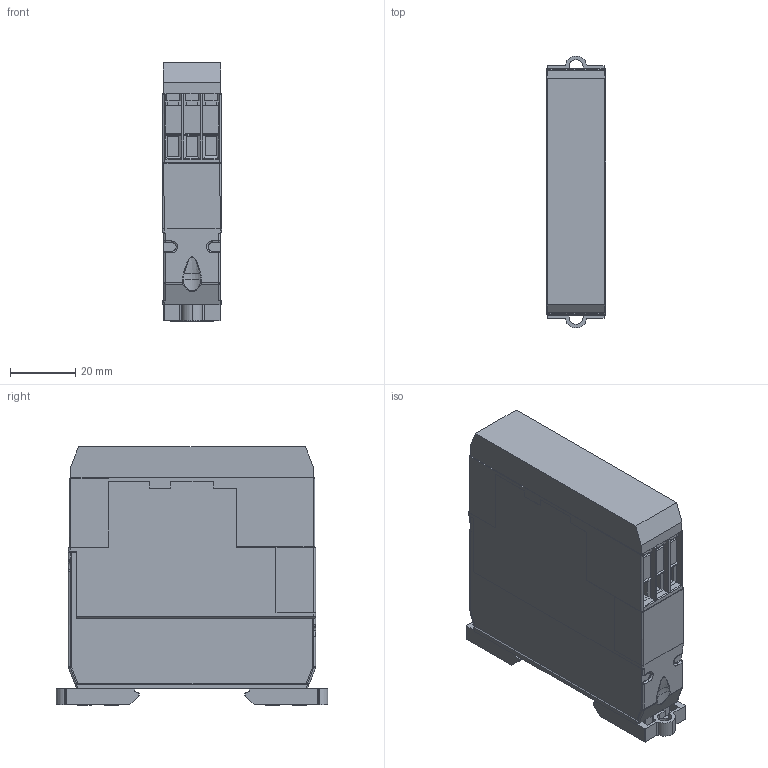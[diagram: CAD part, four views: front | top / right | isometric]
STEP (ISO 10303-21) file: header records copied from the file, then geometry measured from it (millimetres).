
FILE_DESCRIPTION (( 'STEP AP214' ), '1' );
FILE_NAME ('CY1.STEP', '2024-04-11T11:28:04', ( '' ), ( '' ), 'SwSTEP 2.0', 'SolidWorks 2022', '' );
FILE_SCHEMA (( 'AUTOMOTIVE_DESIGN' ));
Length unit declared in the file: millimetre
Products named in the file (1): CY1
Bounding box: 18.18 x 83.2 x 79.15 mm (x, y, z)
Volume: 98526.7 mm3; surface area: 25403.3 mm2
Topology: 1 solids, 9 shells, 733 faces, 2020 edges, 1277 vertices
Faces by surface type: plane 504, cylinder 149, cone 26, sphere 24, bspline 22, torus 8
Entity records: 31363 total; most frequent: CARTESIAN_POINT 5822, ORIENTED_EDGE 3980, DIRECTION 3334, EDGE_CURVE 1990, VECTOR 1402, LINE 1402, VERTEX_POINT 1257, AXIS2_PLACEMENT_3D 966
